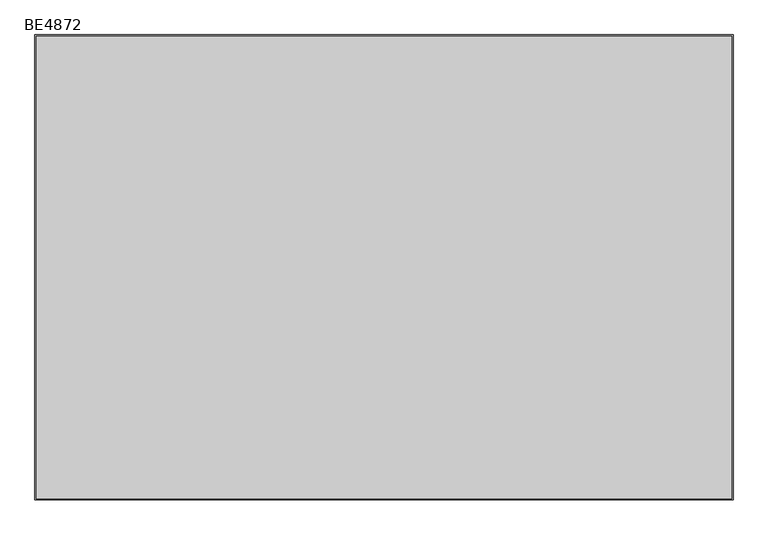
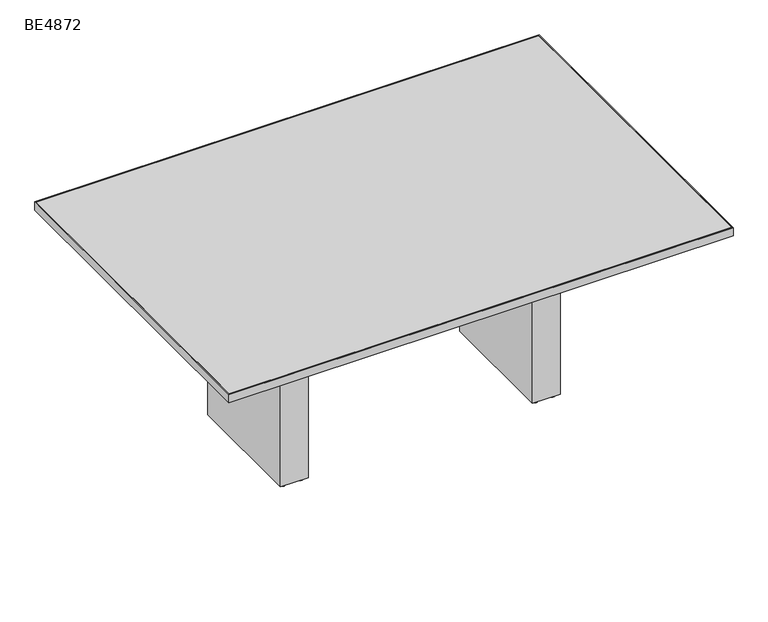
"""IFC4 building model written with IfcOpenShell, lengths in millimetres: furniture geometry, ERG-Beta-Conference_Table-Rectangle : BE4872."""

from ifc_helpers import new_model, si_unit, point, frame, frame_2d, origin, origin_with_axes, place, context, project, spatial, polyline, circle_curve, trimmed, segment, composite_curve, outline, extrude, source, transform, mapped, element, save


def be4872_4a25be52(model_context):
    return source(origin(), model_context, "Body", "SweptSolid", [
        extrude(outline(composite_curve([segment(trimmed(circle_curve(frame_2d((968.375, 263.276527)), 9.525), [point((958.85, 263.276527))], [point((977.9, 263.276527))], False, "CARTESIAN"), True, "CONTINUOUS"), segment(trimmed(circle_curve(frame_2d((968.375, 263.276527)), 9.525), [point((977.9, 263.276527))], [point((958.85, 263.276527))], False, "CARTESIAN"), True, "CONTINUOUS")], self_intersect=False)), origin_with_axes(), (0.0, 0.0, 1.0), 9.525),
        extrude(outline(composite_curve([segment(trimmed(circle_curve(frame_2d((1031.875, 263.276527)), 9.525), [point((1022.35, 263.276527))], [point((1041.4, 263.276527))], False, "CARTESIAN"), True, "CONTINUOUS"), segment(trimmed(circle_curve(frame_2d((1031.875, 263.276527)), 9.525), [point((1041.4, 263.276527))], [point((1022.35, 263.276527))], False, "CARTESIAN"), True, "CONTINUOUS")], self_intersect=False)), origin_with_axes(), (0.0, 0.0, 1.0), 9.525),
        extrude(outline(composite_curve([segment(trimmed(circle_curve(frame_2d((968.375, -155.823473)), 9.525), [point((958.85, -155.823473))], [point((977.9, -155.823473))], False, "CARTESIAN"), True, "CONTINUOUS"), segment(trimmed(circle_curve(frame_2d((968.375, -155.823473)), 9.525), [point((977.9, -155.823473))], [point((958.85, -155.823473))], False, "CARTESIAN"), True, "CONTINUOUS")], self_intersect=False)), origin_with_axes(), (0.0, 0.0, 1.0), 9.525),
        extrude(outline(composite_curve([segment(trimmed(circle_curve(frame_2d((1031.875, -155.823473)), 9.525), [point((1022.35, -155.823473))], [point((1041.4, -155.823473))], False, "CARTESIAN"), True, "CONTINUOUS"), segment(trimmed(circle_curve(frame_2d((1031.875, -155.823473)), 9.525), [point((1041.4, -155.823473))], [point((1022.35, -155.823473))], False, "CARTESIAN"), True, "CONTINUOUS")], self_intersect=False)), origin_with_axes(), (0.0, 0.0, 1.0), 9.525),
        extrude(outline(polyline([(1050.925, 282.326527), (1050.925, -174.873473), (949.325, -174.873473), (949.325, 282.326527), (1050.925, 282.326527)])), frame((0.0, 0.0, 9.525), z_axis=(0.0, 0.0, 1.0), x_axis=(1.0, 0.0, 0.0)), (0.0, 0.0, 1.0), 695.3249758),
        extrude(outline(composite_curve([segment(trimmed(circle_curve(frame_2d((53.975, 263.276527)), 9.525), [point((44.45, 263.276527))], [point((63.5, 263.276527))], False, "CARTESIAN"), True, "CONTINUOUS"), segment(trimmed(circle_curve(frame_2d((53.975, 263.276527)), 9.525), [point((63.5, 263.276527))], [point((44.45, 263.276527))], False, "CARTESIAN"), True, "CONTINUOUS")], self_intersect=False)), origin_with_axes(), (0.0, 0.0, 1.0), 9.525),
        extrude(outline(composite_curve([segment(trimmed(circle_curve(frame_2d((117.475, 263.276527)), 9.525), [point((107.95, 263.276527))], [point((127.0, 263.276527))], False, "CARTESIAN"), True, "CONTINUOUS"), segment(trimmed(circle_curve(frame_2d((117.475, 263.276527)), 9.525), [point((127.0, 263.276527))], [point((107.95, 263.276527))], False, "CARTESIAN"), True, "CONTINUOUS")], self_intersect=False)), origin_with_axes(), (0.0, 0.0, 1.0), 9.525),
        extrude(outline(composite_curve([segment(trimmed(circle_curve(frame_2d((53.975, -155.823473)), 9.525), [point((44.45, -155.823473))], [point((63.5, -155.823473))], False, "CARTESIAN"), True, "CONTINUOUS"), segment(trimmed(circle_curve(frame_2d((53.975, -155.823473)), 9.525), [point((63.5, -155.823473))], [point((44.45, -155.823473))], False, "CARTESIAN"), True, "CONTINUOUS")], self_intersect=False)), origin_with_axes(), (0.0, 0.0, 1.0), 9.525),
        extrude(outline(composite_curve([segment(trimmed(circle_curve(frame_2d((117.475, -155.823473)), 9.525), [point((107.95, -155.823473))], [point((127.0, -155.823473))], False, "CARTESIAN"), True, "CONTINUOUS"), segment(trimmed(circle_curve(frame_2d((117.475, -155.823473)), 9.525), [point((127.0, -155.823473))], [point((107.95, -155.823473))], False, "CARTESIAN"), True, "CONTINUOUS")], self_intersect=False)), origin_with_axes(), (0.0, 0.0, 1.0), 9.525),
        extrude(outline(polyline([(136.525, 282.326527), (136.525, -174.873473), (34.925, -174.873473), (34.925, 282.326527), (136.525, 282.326527)])), frame((0.0, 0.0, 9.525), z_axis=(0.0, 0.0, 1.0), x_axis=(1.0, 0.0, 0.0)), (0.0, 0.0, 1.0), 695.3249758),
        extrude(outline(polyline([(1457.325, -555.873473), (-371.475, -555.873473), (-371.475, 663.326527), (1457.325, 663.326527), (1457.325, -555.873473)]), holes=[polyline([(1454.15, 660.151527), (-368.3, 660.151527), (-368.3, -552.698473), (1454.15, -552.698473), (1454.15, 660.151527)])]), frame((0.0, 0.0, 704.85), z_axis=(0.0, 0.0, 1.0), x_axis=(1.0, 0.0, 0.0)), (0.0, 0.0, 1.0), 31.75),
        extrude(outline(polyline([(1454.15, -552.698473), (-368.3, -552.698473), (-368.3, 660.151527), (1454.15, 660.151527), (1454.15, -552.698473)])), frame((0.0, 0.0, 704.85), z_axis=(0.0, 0.0, 1.0), x_axis=(1.0, 0.0, 0.0)), (0.0, 0.0, 1.0), 31.75),
    ])


if __name__ == "__main__":
    model = new_model("IFC4")
    model_context = context("Model", 3, world=origin())
    ifc_project = project(units=[si_unit("LENGTHUNIT", "METRE", prefix="MILLI")], contexts=[model_context])
    site = spatial("IfcSite", under=ifc_project)
    building = spatial("IfcBuilding", under=site)
    placement = place(None, origin())
    be4872_shape = be4872_4a25be52(model_context)
    element("IfcFurniture", 1, ObjectType="ERG-Beta-Conference_Table-Rectangle : BE4872", at=placement, inside=building, context=model_context, shape_type="MappedRepresentation", body=[
        mapped(be4872_shape, transform((0.0, 0.0, 0.0), x_axis=(1.0, 0.0, 0.0), y_axis=(0.0, 1.0, 0.0), z_axis=(0.0, 0.0, 1.0))),
    ])
    save(model, "model.ifc")
